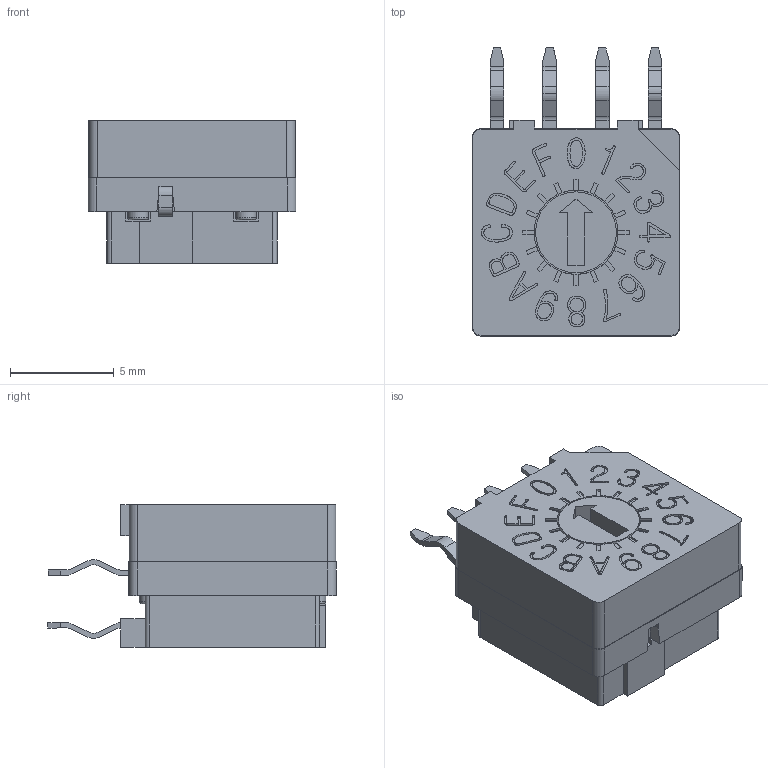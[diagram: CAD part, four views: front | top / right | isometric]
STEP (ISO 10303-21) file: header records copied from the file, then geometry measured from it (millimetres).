
FILE_DESCRIPTION (( 'STEP AP203' ), '1' );
FILE_NAME ('DRR 3016.STEP', '2017-10-27T09:47:12', ( '' ), ( '' ), 'SwSTEP 2.0', 'SolidWorks 2017', '' );
FILE_SCHEMA (( 'CONFIG_CONTROL_DESIGN' ));
Length unit declared in the file: millimetre
Products named in the file (1): DRR 3016
Bounding box: 10 x 13.9 x 6.88 mm (x, y, z)
Volume: 494.3 mm3; surface area: 1593.2 mm2
Topology: 6 solids, 6 shells, 1484 faces, 4229 edges, 2809 vertices
Faces by surface type: plane 698, bspline 520, cylinder 254, cone 8, torus 4
Entity records: 61791 total; most frequent: CARTESIAN_POINT 26049, ORIENTED_EDGE 8458, DIRECTION 5694, EDGE_CURVE 4229, VERTEX_POINT 2809, VECTOR 2622, LINE 2622, EDGE_LOOP 1572
